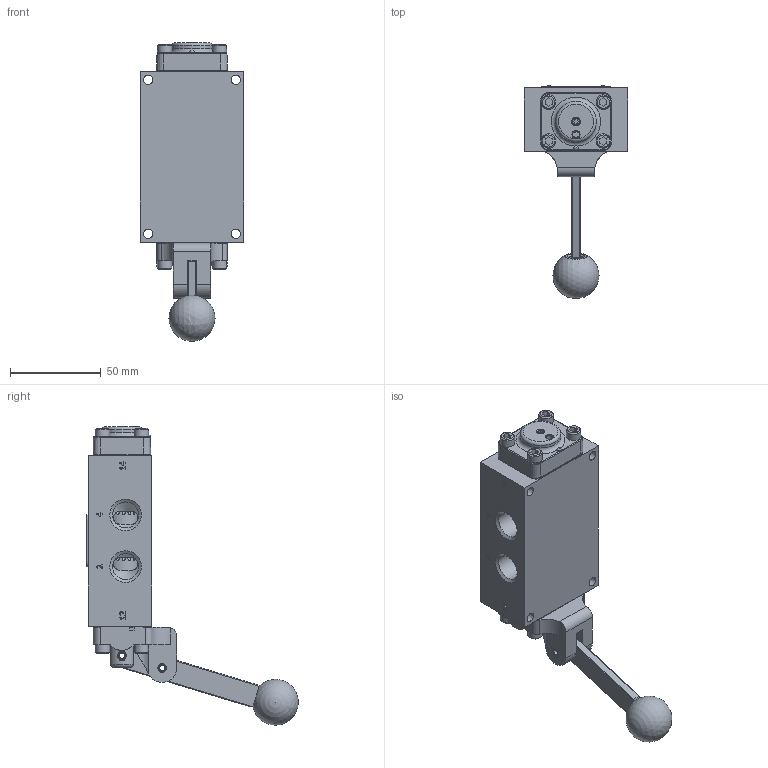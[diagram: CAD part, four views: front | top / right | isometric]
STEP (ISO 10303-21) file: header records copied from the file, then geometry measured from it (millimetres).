
FILE_DESCRIPTION(/* description */ (''),/* implementation_level */ '2;1');
FILE_NAME(/* name */ 'D:\Engineering\Product\valves\Assembly\lever\HA\stp\HA3JT.stp',/* time_stamp */ '2022-11-30T23:21:18-05:00',/* author */ ('RMcKenna'),/* organization */ (''),/* preprocessor_version */ 'ST-DEVELOPER v18.1',/* originating_system */ 'Autodesk Inventor 2021',/* authorisation */ '');
FILE_SCHEMA (('AUTOMOTIVE_DESIGN { 1 0 10303 214 3 1 1 }'));
Length unit declared in the file: centimetre
Products named in the file (1): Part45
Bounding box: 57.15 x 117.14 x 164.4 mm (x, y, z)
Volume: 204845.2 mm3; surface area: 63851.3 mm2
Topology: 1 solids, 28 shells, 1246 faces, 3074 edges, 1956 vertices
Faces by surface type: plane 553, cone 263, cylinder 223, bspline 108, torus 95, sphere 4
Full cylindrical faces by diameter (mm): 2.07 x2, 2.261 x2, 2.778 x2, 3.175 x2, 3.618 x1, 3.683 x12, 3.912 x3, 4.75 x2, 4.763 x2, 4.826 x8, 4.978 x4, 5.055 x1, 5.156 x12, 7.798 x1, 7.938 x8, 9.525 x1, 9.728 x1, 9.855 x1, 11.113 x1, 11.303 x3, 12.141 x2, 14.275 x1, 14.287 x5, 15.596 x1, 18.618 x1, 18.745 x12, 19.177 x2, 22.327 x1, 23.825 x6
Entity records: 42427 total; most frequent: CARTESIAN_POINT 12295, ORIENTED_EDGE 6110, DIRECTION 5733, EDGE_CURVE 3055, AXIS2_PLACEMENT_3D 2080, VERTEX_POINT 1956, LINE 1573, VECTOR 1573
